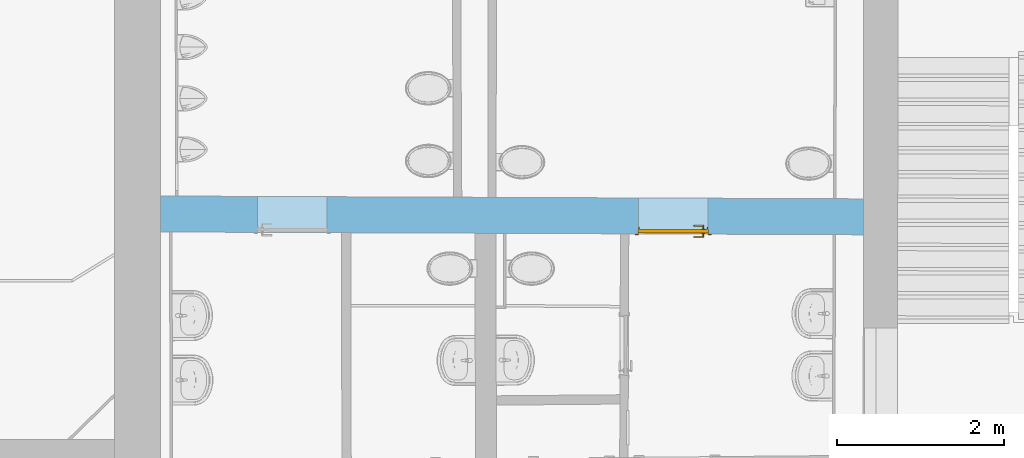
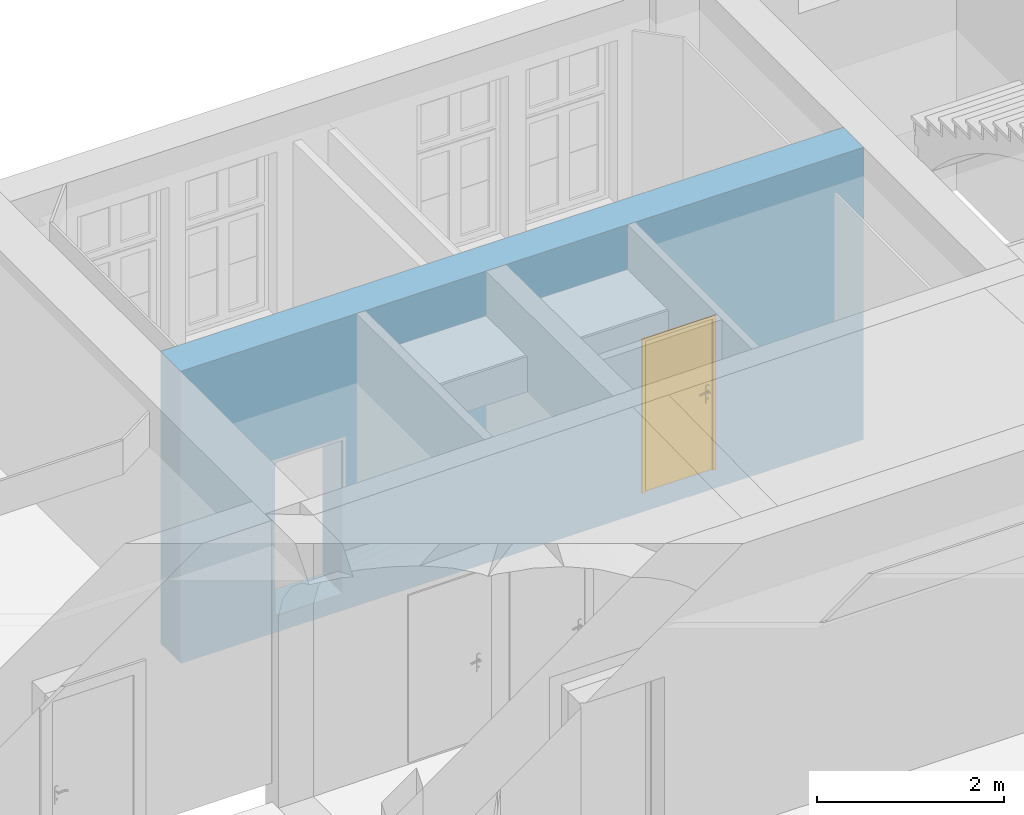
# One storey, part 83 of 158: 1 door, 2 openings, plus 1 element that does not belong to this part.
"""IFC2X3 building model written with IfcOpenShell, lengths in metres."""

import ifcopenshell
import ifcopenshell.guid

model = None  # the IFC model being written
_history = None  # IfcOwnerHistory: only IFC2X3 demands one
_inside = {}  # id of a spatial element -> (the spatial element, [elements in it])
_under = {}  # id of a project, library or spatial element -> (it, [spatial elements below it])
_declared = {}  # id of a project -> (the project, [libraries it declares])
_typed = {}  # id of a type object -> (the type object, [elements of that type])
_made_of = {}  # id of a material, layer set ... -> (it, [elements and type objects made of it])


def new_model(schema):
    """Start an empty IFC model of exactly this schema.

    Asked for "IFC4X3", IfcOpenShell would pick the latest addendum, in which some entities
    have other attributes; the version numbers below select the first issue.
    IFC2X3 requires an IfcOwnerHistory on every rooted entity: one is made here for all.
    """
    global model, _history
    if schema == "IFC4X3":
        model = ifcopenshell.file(schema_version=(4, 3, 0, 0))
    else:
        model = ifcopenshell.file(schema=schema)
    _inside.clear()
    _under.clear()
    _declared.clear()
    _typed.clear()
    _made_of.clear()
    _history = None
    if model.schema == "IFC2X3":
        org = make("IfcOrganization", Name="unknown")
        user = make(
            "IfcPersonAndOrganization",
            ThePerson=make("IfcPerson", FamilyName="unknown"),
            TheOrganization=org,
        )
        app = make(
            "IfcApplication",
            ApplicationDeveloper=org,
            Version="unknown",
            ApplicationFullName="unknown",
            ApplicationIdentifier="unknown",
        )
        _history = make(
            "IfcOwnerHistory",
            OwningUser=user,
            OwningApplication=app,
            ChangeAction="ADDED",
            CreationDate=0,
        )
    return model


def make(cls, **values):
    """One entity of the class cls with the attributes given. An attribute that is None is left unset."""
    return model.create_entity(
        cls, **{name: value for name, value in values.items() if value is not None}
    )


def entity(cls, *values):
    """Any entity or typed value of the class cls, its attributes in the order of the schema. None: left unset."""
    e = model.create_entity(cls)
    for i, value in enumerate(values):
        if value is not None:
            e[i] = value
    return e


def rooted(cls, **values):
    """An entity with a GlobalId (a new one), such as an element, a storey or a relation."""
    return make(cls, GlobalId=ifcopenshell.guid.new(), OwnerHistory=_history, **values)


def si_unit(unit_type, name, prefix=None):
    """IfcSIUnit, for example si_unit("LENGTHUNIT", "METRE", prefix="MILLI")."""
    return make("IfcSIUnit", UnitType=unit_type, Prefix=prefix, Name=name)


def converted_unit(unit_type, name, factor, base, dimensions=None, offset=None):
    """IfcConversionBasedUnit, such as the inch: factor (a typed value) times the base unit."""
    return make(
        "IfcConversionBasedUnit"
        if offset is None
        else "IfcConversionBasedUnitWithOffset",
        ConversionOffset=offset,
        Dimensions=None
        if dimensions is None
        else entity("IfcDimensionalExponents", *dimensions),
        UnitType=unit_type,
        Name=name,
        ConversionFactor=make(
            "IfcMeasureWithUnit", ValueComponent=factor, UnitComponent=base
        ),
    )


def derived_unit(unit_type, elements):
    """IfcDerivedUnit: a product of units, each with its exponent."""
    return make(
        "IfcDerivedUnit",
        Elements=[
            make("IfcDerivedUnitElement", Unit=unit, Exponent=power)
            for unit, power in elements
        ],
        UnitType=unit_type,
    )


def money_unit(currency):
    """IfcMonetaryUnit."""
    return make("IfcMonetaryUnit", Currency=currency)


def assignment(units):
    """IfcUnitAssignment: the units of a project."""
    return None if units is None else make("IfcUnitAssignment", Units=units)


def point(xyz):
    """IfcCartesianPoint."""
    return None if xyz is None else make("IfcCartesianPoint", Coordinates=xyz)


def direction(xyz):
    """IfcDirection."""
    return None if xyz is None else make("IfcDirection", DirectionRatios=xyz)


def frame(location, z_axis=None, x_axis=None):
    """IfcAxis2Placement3D, a coordinate frame: its origin and axes. An axis left out is left unset."""
    return make(
        "IfcAxis2Placement3D",
        Location=point(location),
        Axis=direction(z_axis),
        RefDirection=direction(x_axis),
    )


def frame_2d(location, x_axis=None):
    """IfcAxis2Placement2D, a coordinate frame in the plane: its origin and x axis."""
    return make(
        "IfcAxis2Placement2D", Location=point(location), RefDirection=direction(x_axis)
    )


def origin_with_axes():
    """The frame at (0, 0, 0) with the z axis (0, 0, 1) and the x axis (1, 0, 0) written out."""
    return frame((0.0, 0.0, 0.0), z_axis=(0.0, 0.0, 1.0), x_axis=(1.0, 0.0, 0.0))


def origin_2d_with_axis():
    """The frame at (0, 0) in the plane with the x axis (1, 0) written out."""
    return frame_2d((0.0, 0.0), x_axis=(1.0, 0.0))


def place(relative_to, where):
    """IfcLocalPlacement: puts the frame where relative to a parent placement (None: the world)."""
    return make(
        "IfcLocalPlacement", PlacementRelTo=relative_to, RelativePlacement=where
    )


def context(
    kind, dimensions, precision=None, world=None, true_north=None, identifier=None
):
    """IfcGeometricRepresentationContext, for example the 3D "Model" context."""
    return make(
        "IfcGeometricRepresentationContext",
        ContextIdentifier=identifier,
        ContextType=kind,
        CoordinateSpaceDimension=dimensions,
        Precision=precision,
        WorldCoordinateSystem=world,
        TrueNorth=true_north,
    )


def subcontext(parent, identifier, kind, view, scale=None):
    """IfcGeometricRepresentationSubContext, for example "Body" below "Model"."""
    return make(
        "IfcGeometricRepresentationSubContext",
        ContextIdentifier=identifier,
        ContextType=kind,
        ParentContext=parent,
        TargetScale=scale,
        TargetView=view,
    )


def project(units=None, contexts=None):
    """IfcProject with its units and contexts."""
    return rooted(
        "IfcProject",
        Name="project",
        RepresentationContexts=contexts,
        UnitsInContext=assignment(units),
    )


def spatial(cls, under=None, at=None, **own):
    """A site, building, storey or space (cls), placed at a placement, below another one or the project."""
    s = rooted(cls, ObjectPlacement=at, **own)
    if under is not None:
        _under.setdefault(under.id(), (under, []))[1].append(s)
    return s


def polyline(points):
    """IfcPolyline through the points."""
    return make("IfcPolyline", Points=[point(p) for p in points])


def profile(cls, at=None, kind="AREA", **sizes):
    """A parametric profile (cls). Its sizes go by their IFC names, for example OverallWidth=200.0."""
    return make(cls, ProfileType=kind, Position=at, **sizes)


def rectangle(**sizes):
    """IfcRectangleProfileDef."""
    return profile("IfcRectangleProfileDef", **sizes)


def outline(outer, holes=None, kind="AREA"):
    """IfcArbitraryClosedProfileDef: a profile drawn as a closed curve; with holes, ...WithVoids."""
    if holes is None:
        return make("IfcArbitraryClosedProfileDef", ProfileType=kind, OuterCurve=outer)
    return make(
        "IfcArbitraryProfileDefWithVoids",
        ProfileType=kind,
        OuterCurve=outer,
        InnerCurves=holes,
    )


def extrude(swept, where, along, depth):
    """IfcExtrudedAreaSolid: the profile swept, set in the frame where, extruded along a direction by depth."""
    return make(
        "IfcExtrudedAreaSolid",
        SweptArea=swept,
        Position=where,
        ExtrudedDirection=direction(along),
        Depth=depth,
    )


def boolean(op, a, b):
    """IfcBooleanResult of two solids."""
    return make("IfcBooleanResult", Operator=op, FirstOperand=a, SecondOperand=b)


def faces_of(points, faces, orient=None, outer=None):
    """IfcFace entities. A face is a list of loops; a loop is a list of indices into points, from 0.

    orient and outer hold one flag for each loop. By default every Orientation is true, the
    first loop of a face is its IfcFaceOuterBound and the others are IfcFaceBound.
    """
    made = []
    for i, loops in enumerate(faces):
        bounds = []
        for j, loop in enumerate(loops):
            is_outer = j == 0 if outer is None else outer[i][j]
            bounds.append(
                make(
                    "IfcFaceOuterBound" if is_outer else "IfcFaceBound",
                    Bound=make("IfcPolyLoop", Polygon=[points[k] for k in loop]),
                    Orientation=True if orient is None else orient[i][j],
                )
            )
        made.append(make("IfcFace", Bounds=bounds))
    return made


def faceted_brep(points, faces, orient=None, outer=None, voids=None):
    """IfcFacetedBrep: a solid bounded by flat faces; with voids (closed shells), ...WithVoids."""
    shared = [point(p) for p in points]
    hull = make("IfcClosedShell", CfsFaces=faces_of(shared, faces, orient, outer))
    if voids is None:
        return make("IfcFacetedBrep", Outer=hull)
    return make(
        "IfcFacetedBrepWithVoids",
        Outer=hull,
        Voids=[
            make(cls, CfsFaces=faces_of(shared, fs, o, b)) for cls, fs, o, b in voids
        ],
    )


def shape(context_of_items, identifier, shape_type, items):
    """IfcShapeRepresentation: the items that make up one representation, for example the "Body"."""
    return make(
        "IfcShapeRepresentation",
        ContextOfItems=context_of_items,
        RepresentationIdentifier=identifier,
        RepresentationType=shape_type,
        Items=items,
    )


def material(Name=None, Category=None):
    """IfcMaterial."""
    return make("IfcMaterial", Name=Name, Category=Category)


def made_of(thing, what):
    """Note that an element or type object is made of a material, layer set ...; save() writes the relation."""
    if what is not None:
        _made_of.setdefault(what.id(), (what, []))[1].append(thing)
    return thing


def type_object(cls, material=None, **own):
    """A type object (cls), such as IfcWallType, which elements share."""
    return made_of(rooted(cls, **own), material)


def element(
    cls,
    number,
    at=None,
    inside=None,
    cuts=None,
    type_object=None,
    material=None,
    context=None,
    identifier="Body",
    shape_type=None,
    held_by="IfcProductDefinitionShape",
    body=None,
    shapes=None,
    **own,
):
    """One element of the class cls, such as IfcWall. Its Tag is "e" and its number.

    at: its placement. inside: the storey or other place that contains it. cuts: it is an
    opening in that element (IfcRelVoidsElement). A single representation is given by context,
    identifier, shape_type and body (its items); several are given by shapes. held_by: the class
    of the entity that holds the representations. save() writes the other relations.
    """
    e = rooted(cls, Tag="e%d" % number, ObjectPlacement=at, **own)
    if body is not None:
        shapes = [shape(context, identifier, shape_type, body)]
    if shapes is not None:
        e.Representation = make(held_by, Representations=shapes)
    if inside is not None:
        _inside.setdefault(inside.id(), (inside, []))[1].append(e)
    if cuts is not None:
        rooted(
            "IfcRelVoidsElement", RelatingBuildingElement=cuts, RelatedOpeningElement=e
        )
    if type_object is not None:
        _typed.setdefault(type_object.id(), (type_object, []))[1].append(e)
    return made_of(e, material)


def fill(opening, filler):
    """IfcRelFillsElement: the door or window that sits in an opening."""
    return rooted(
        "IfcRelFillsElement",
        RelatingOpeningElement=opening,
        RelatedBuildingElement=filler,
    )


def aggregate(whole, parts):
    """IfcRelAggregates: a whole, such as a stair, and the parts it consists of."""
    return rooted("IfcRelAggregates", RelatingObject=whole, RelatedObjects=parts)


def save(model, path):
    """Write the relations noted so far, then the file.

    IfcRelAggregates (storeys below a building ...), IfcRelContainedInSpatialStructure (elements
    in a storey), IfcRelDefinesByType, IfcRelAssociatesMaterial and IfcRelDeclares: one each for
    every whole, place, type object, material and project.
    """
    for whole, parts in _under.values():
        aggregate(whole, parts)
    for where, things in _inside.values():
        rooted(
            "IfcRelContainedInSpatialStructure",
            RelatedElements=things,
            RelatingStructure=where,
        )
    for kind, things in _typed.values():
        rooted("IfcRelDefinesByType", RelatedObjects=things, RelatingType=kind)
    for what, things in _made_of.values():
        rooted("IfcRelAssociatesMaterial", RelatedObjects=things, RelatingMaterial=what)
    for by, libraries in _declared.values():
        rooted("IfcRelDeclares", RelatingContext=by, RelatedDefinitions=libraries)
    model.write(path)


model = new_model("IFC2X3")

# Units and contexts
model_context = context("Model", 3, precision=1e-05, world=origin_with_axes(), true_north=direction((0.0, 1.0)))
body_context = subcontext(model_context, "Body", "Model", "MODEL_VIEW")
ifc_project = project(units=[si_unit("LENGTHUNIT", "METRE"), si_unit("AREAUNIT", "SQUARE_METRE"), si_unit("VOLUMEUNIT", "CUBIC_METRE"), converted_unit("PLANEANGLEUNIT", "DEGREE", entity("IfcPlaneAngleMeasure", 0.0174532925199), si_unit("PLANEANGLEUNIT", "RADIAN"), dimensions=[0, 0, 0, 0, 0, 0, 0]), money_unit("EUR"), converted_unit("TIMEUNIT", "Year", entity("IfcTimeMeasure", 31556926.0), si_unit("TIMEUNIT", "SECOND"), dimensions=[0, 0, 1, 0, 0, 0, 0]), si_unit("MASSUNIT", "GRAM", prefix="KILO"), si_unit("THERMODYNAMICTEMPERATUREUNIT", "DEGREE_CELSIUS"), si_unit("LUMINOUSINTENSITYUNIT", "LUMEN"), si_unit("ENERGYUNIT", "JOULE", prefix="MEGA"), derived_unit("THERMALCONDUCTANCEUNIT", [(si_unit("POWERUNIT", "WATT"), 1), (si_unit("LENGTHUNIT", "METRE"), -1), (si_unit("THERMODYNAMICTEMPERATUREUNIT", "KELVIN"), -1)]), derived_unit("SPECIFICHEATCAPACITYUNIT", [(si_unit("ENERGYUNIT", "JOULE"), 1), (si_unit("MASSUNIT", "GRAM", prefix="KILO"), -1), (si_unit("THERMODYNAMICTEMPERATUREUNIT", "KELVIN"), -1)]), derived_unit("MASSDENSITYUNIT", [(si_unit("MASSUNIT", "GRAM", prefix="KILO"), 1), (si_unit("VOLUMEUNIT", "CUBIC_METRE"), -1)])], contexts=[model_context])

# Site, building, storey
site_placement = place(None, origin_with_axes())
site = spatial("IfcSite", under=ifc_project, at=site_placement, Name="Gelände", CompositionType="ELEMENT")
building_placement = place(site_placement, origin_with_axes())
building = spatial("IfcBuilding", under=site, at=building_placement, Name="Gebäude", CompositionType="ELEMENT")
storey_placement = place(building_placement, origin_with_axes())
storey = spatial("IfcBuildingStorey", under=building, at=storey_placement, Name="ERDGESCHOSS", CompositionType="ELEMENT", Elevation=0.0)

# Wall, openings, door
ifc_material = material(Name="05_ALLGEMEIN - TRAGENDE BAUTEILE")
wall_type = type_object("IfcWallType", Name="05_ALLGEMEIN - TRAGENDE BAUTEILE 430", PredefinedType="ELEMENTEDWALL")
wall_placement = place(storey_placement, frame((12.5396494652, 22.1758858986, -0.210000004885), z_axis=(0.0, 0.0, 1.0), x_axis=(0.999992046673, -0.0039883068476, 0.0)))
wall = element("IfcWall", 1, at=wall_placement, inside=storey, type_object=wall_type, material=ifc_material, Name="Wand-039", ObjectType="ELEMENTEDWALL", context=body_context, shape_type="CSG", body=[
    boolean("DIFFERENCE", boolean("DIFFERENCE", extrude(outline(polyline([(-0.0018147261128, 0.0), (9.3577466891, 0.0), (9.3577466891, 0.43), (-0.0018147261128, 0.43), (-0.0018147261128, 0.0)])), origin_with_axes(), (0.0, 0.0, 1.0), 3.81000000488), faceted_brep([(0.550004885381, 0.0, 2.78243494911e-09), (0.550004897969, 0.0, 3.81000000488), (-0.0018147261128, 0.0, 3.81000000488), (-0.0018147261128, 0.0, 0.0), (0.548190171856, 0.43, 3.81000000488), (0.548190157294, 0.43, 2.48720399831e-09), (-0.0018147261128, 0.43, 3.81000000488), (-0.0018147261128, 0.43, 0.0)], [[[0, 1, 2, 3]], [[4, 1, 0, 5]], [[1, 4, 6, 2]], [[6, 7, 3, 2]], [[5, 0, 3, 7]], [[4, 5, 7, 6]]])), faceted_brep([(8.94659090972, 0.43, 0.0), (8.94659090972, 0.43, 3.81000000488), (9.3577466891, 0.43, 3.81000000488), (9.3577466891, 0.43, 0.0), (8.94774521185, 0.0, 3.81000000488), (8.94774521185, 0.0, 0.0), (9.3577466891, 0.0, 3.81000000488), (9.3577466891, 0.0, 0.0)], [[[0, 1, 2, 3]], [[4, 1, 0, 5]], [[1, 4, 6, 2]], [[6, 7, 3, 2]], [[5, 0, 3, 7]], [[4, 5, 7, 6]]])),
])
opening_1_placement = place(wall_placement, frame((2.12348208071, 0.0, 0.220000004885), z_axis=(0.0, 0.0, 1.0), x_axis=(1.0, 0.0, 0.0)))
element("IfcOpeningElement", 2, at=opening_1_placement, cuts=wall, Name="Tür-022", context=body_context, shape_type="SweptSolid", body=[
    extrude(rectangle(XDim=0.829850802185, YDim=2.00684416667, at=origin_2d_with_axis()), frame((0.0, -0.43, 1.00342208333), z_axis=(0.0, -1.0, 0.0), x_axis=(1.0, 0.0, 0.0)), (0.0, 0.0, -1.0), 1.29),
])
opening_2_placement = place(wall_placement, frame((6.67496092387, 0.0, 0.250000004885), z_axis=(0.0, 0.0, 1.0), x_axis=(1.0, 0.0, 0.0)))
opening_2 = element("IfcOpeningElement", 3, at=opening_2_placement, cuts=wall, Name="Tür-022", context=body_context, shape_type="SweptSolid", body=[
    extrude(rectangle(XDim=0.832133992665, YDim=1.97475383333, at=origin_2d_with_axis()), frame((0.0, -0.43, 0.987376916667), z_axis=(0.0, 1.0, 0.0), x_axis=(-1.0, 0.0, 0.0)), (0.0, 0.0, 1.0), 1.29),
])
door_style = type_object("IfcDoorStyle", Name="Blockrahmentür 1-Fl 25", ConstructionType="NOTDEFINED", OperationType="SINGLE_SWING_RIGHT", ParameterTakesPrecedence=False, Sizeable=False)
door_placement = place(opening_2_placement, frame((0.405566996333, 0.0, 0.0), z_axis=(0.0, 0.0, 1.0), x_axis=(-1.0, 0.0, 0.0)))
door = element("IfcDoor", 4, at=door_placement, inside=storey, type_object=door_style, Name="Tür-022", ObjectType="NOTDEFINED", OverallHeight=1.97475, OverallWidth=0.832134, context=body_context, shape_type="Brep", body=[
    faceted_brep([(0.821633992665, -0.084, 0.0), (0.821633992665, -0.054, 0.0), (0.821633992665, -0.054, 1.97475383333), (0.821633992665, -0.084, 1.97475383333), (0.811133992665, -0.084, 0.0), (0.811133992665, -0.054, 0.0), (0.811133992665, -0.054, 1.96425383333), (0.520666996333, -0.054, 1.96425383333), (0.405666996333, -0.054, 1.96425383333), (0.0, -0.054, 1.96425383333), (0.0, -0.054, 0.0), (-0.0105, -0.054, 0.0), (-0.0105, -0.054, 1.97475383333), (-0.0105, -0.084, 1.97475383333), (-0.0105, -0.084, 0.0), (0.0, -0.084, 0.0), (0.0, -0.084, 1.96425383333), (0.405666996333, -0.084, 1.96425383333), (0.520666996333, -0.084, 1.96425383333), (0.811133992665, -0.084, 1.96425383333)], [[[0, 1, 2, 3]], [[4, 5, 1, 0]], [[1, 5, 6, 7, 8, 9, 10, 11, 12, 2]], [[3, 2, 12, 13]], [[0, 3, 13, 14, 15, 16, 17, 18, 19, 4]], [[19, 6, 5, 4]], [[18, 7, 6, 19]], [[17, 8, 7, 18]], [[16, 9, 8, 17]], [[15, 10, 9, 16]], [[14, 11, 10, 15]], [[13, 12, 11, 14]]]),
    faceted_brep([(0.821633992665, -0.054, 0.0), (0.821633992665, 0.011, 0.0), (0.826133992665, 0.011, 0.0), (0.826133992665, -0.054, 0.0), (0.821633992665, -0.054, 1.97475383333), (0.821633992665, 0.011, 1.97475383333), (-0.0105, 0.011, 1.97475383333), (-0.0105, 0.011, 0.0), (-0.015, 0.011, 0.0), (-0.015, 0.011, 1.97925383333), (0.420666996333, 0.011, 1.97925383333), (0.505666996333, 0.011, 1.97925383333), (0.826133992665, 0.011, 1.97925383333), (0.826133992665, -0.054, 1.97925383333), (0.505666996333, -0.054, 1.97925383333), (0.420666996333, -0.054, 1.97925383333), (-0.015, -0.054, 1.97925383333), (-0.015, -0.054, 0.0), (-0.0105, -0.054, 0.0), (-0.0105, -0.054, 1.97475383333)], [[[0, 1, 2, 3]], [[4, 5, 1, 0]], [[1, 5, 6, 7, 8, 9, 10, 11, 12, 2]], [[3, 2, 12, 13]], [[0, 3, 13, 14, 15, 16, 17, 18, 19, 4]], [[19, 6, 5, 4]], [[18, 7, 6, 19]], [[17, 8, 7, 18]], [[16, 9, 8, 17]], [[15, 10, 9, 16]], [[14, 11, 10, 15]], [[13, 12, 11, 14]]]),
    faceted_brep([(0.861633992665, 0.0, 0.0), (0.861633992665, 0.011, 0.0), (0.861633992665, 0.011, 2.01475383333), (0.861633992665, 0.0, 2.01475383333), (0.821633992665, 0.0, 0.0), (0.821633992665, 0.011, 0.0), (0.821633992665, 0.011, 1.97475383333), (-0.0105, 0.011, 1.97475383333), (-0.0105, 0.011, 0.0), (-0.0505, 0.011, 0.0), (-0.0505, 0.011, 2.01475383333), (-0.0505, 0.0, 2.01475383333), (-0.0505, 0.0, 0.0), (-0.0105, 0.0, 0.0), (-0.0105, 0.0, 1.97475383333), (0.821633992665, 0.0, 1.97475383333)], [[[0, 1, 2, 3]], [[4, 5, 1, 0]], [[1, 5, 6, 7, 8, 9, 10, 2]], [[3, 2, 10, 11]], [[0, 3, 11, 12, 13, 14, 15, 4]], [[15, 6, 5, 4]], [[14, 7, 6, 15]], [[13, 8, 7, 14]], [[12, 9, 8, 13]], [[11, 10, 9, 12]]]),
    faceted_brep([(0.826133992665, -0.014, 0.0), (-0.015, -0.014, 0.0), (-0.015, -0.014, 1.97925383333), (0.826133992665, -0.014, 1.97925383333), (0.826133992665, -0.054, 0.0), (-0.015, -0.054, 0.0), (-0.015, -0.054, 1.97925383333), (0.826133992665, -0.054, 1.97925383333)], [[[0, 1, 2, 3]], [[1, 0, 4, 5]], [[2, 1, 5, 6]], [[3, 2, 6, 7]], [[0, 3, 7, 4]], [[5, 4, 7, 6]]]),
    faceted_brep([(0.0402977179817, -0.094, 1.05647213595), (0.045, -0.094, 1.058), (0.045, -0.074, 1.058), (0.0402977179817, -0.074, 1.05647213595), (0.0373915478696, -0.094, 1.05247213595), (0.0373915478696, -0.094, 1.04752786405), (0.0402977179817, -0.094, 1.04352786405), (0.045, -0.094, 1.042), (0.0497022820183, -0.094, 1.04352786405), (0.0526084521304, -0.094, 1.04752786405), (0.0526084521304, -0.094, 1.05247213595), (0.0497022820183, -0.094, 1.05647213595), (0.0497022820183, -0.074, 1.05647213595), (0.045, -0.072, 1.06), (0.0391221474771, -0.072, 1.05809016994), (0.0373915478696, -0.074, 1.05247213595), (0.0373915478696, -0.074, 1.04752786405), (0.0402977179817, -0.074, 1.04352786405), (0.045, -0.074, 1.042), (0.0497022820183, -0.074, 1.04352786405), (0.0526084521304, -0.074, 1.04752786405), (0.0526084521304, -0.074, 1.05247213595), (0.0508778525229, -0.072, 1.05809016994), (0.045, -0.064, 1.06), (0.0391221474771, -0.064, 1.05809016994), (0.0354894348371, -0.072, 1.05309016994), (0.0354894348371, -0.072, 1.04690983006), (0.0391221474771, -0.072, 1.04190983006), (0.045, -0.072, 1.04), (0.0508778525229, -0.072, 1.04190983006), (0.0545105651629, -0.072, 1.04690983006), (0.0545105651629, -0.072, 1.05309016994), (0.0508778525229, -0.064, 1.05809016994), (0.0545105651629, -0.064, 1.05309016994), (0.0545105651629, -0.064, 1.04690983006), (0.0508778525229, -0.064, 1.04190983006), (0.045, -0.064, 1.04), (0.0391221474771, -0.064, 1.04190983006), (0.035489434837, -0.064, 1.04690983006), (0.035489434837, -0.064, 1.05309016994)], [[[0, 1, 2, 3]], [[1, 0, 4, 5, 6, 7, 8, 9, 10, 11]], [[1, 11, 12, 2]], [[3, 2, 13, 14]], [[4, 0, 3, 15]], [[5, 4, 15, 16]], [[6, 5, 16, 17]], [[7, 6, 17, 18]], [[8, 7, 18, 19]], [[9, 8, 19, 20]], [[10, 9, 20, 21]], [[11, 10, 21, 12]], [[2, 12, 22, 13]], [[14, 13, 23, 24]], [[15, 3, 14, 25]], [[16, 15, 25, 26]], [[17, 16, 26, 27]], [[18, 17, 27, 28]], [[19, 18, 28, 29]], [[20, 19, 29, 30]], [[21, 20, 30, 31]], [[12, 21, 31, 22]], [[13, 22, 32, 23]], [[23, 32, 33, 34, 35, 36, 37, 38, 39, 24]], [[25, 14, 24, 39]], [[26, 25, 39, 38]], [[27, 26, 38, 37]], [[28, 27, 37, 36]], [[29, 28, 36, 35]], [[30, 29, 35, 34]], [[31, 30, 34, 33]], [[22, 31, 33, 32]]]),
    faceted_brep([(0.0571883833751, -0.064, 1.11759695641), (0.0494435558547, -0.064, 1.12195567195), (0.0405564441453, -0.064, 1.12195567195), (0.0328116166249, -0.064, 1.11759695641), (0.0282, -0.064, 1.11), (0.0225, -0.064, 1.11), (0.0225, -0.064, 0.89), (0.0282, -0.064, 0.89), (0.0328116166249, -0.064, 0.882403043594), (0.0405564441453, -0.064, 0.878044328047), (0.0494435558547, -0.064, 0.878044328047), (0.0571883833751, -0.064, 0.882403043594), (0.0618, -0.064, 0.89), (0.0675, -0.064, 0.89), (0.0675, -0.064, 1.11), (0.0618, -0.064, 1.11), (0.045, -0.064, 0.967425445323), (0.050375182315, -0.064, 0.965143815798), (0.0524678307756, -0.064, 0.959692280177), (0.05, -0.064, 0.9544), (0.05, -0.064, 0.9375), (0.0485355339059, -0.064, 0.933964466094), (0.045, -0.064, 0.9325), (0.0414644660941, -0.064, 0.933964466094), (0.04, -0.064, 0.9375), (0.04, -0.064, 0.9544), (0.0375321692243, -0.064, 0.959692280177), (0.039624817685, -0.064, 0.965143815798), (0.0571883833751, -0.054, 1.11759695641), (0.0494435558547, -0.054, 1.12195567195), (0.0405564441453, -0.054, 1.12195567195), (0.0328116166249, -0.054, 1.11759695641), (0.0282, -0.054, 1.11), (0.0225, -0.054, 1.11), (0.0225, -0.054, 0.89), (0.0282, -0.054, 0.89), (0.0328116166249, -0.054, 0.882403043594), (0.0405564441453, -0.054, 0.878044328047), (0.0494435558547, -0.054, 0.878044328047), (0.0571883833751, -0.054, 0.882403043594), (0.0618, -0.054, 0.89), (0.0675, -0.054, 0.89), (0.0675, -0.054, 1.11), (0.0618, -0.054, 1.11), (0.045, -0.054, 0.967425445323), (0.050375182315, -0.054, 0.965143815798), (0.0524678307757, -0.054, 0.959692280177), (0.05, -0.054, 0.9544), (0.05, -0.054, 0.9375), (0.0485355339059, -0.054, 0.933964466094), (0.045, -0.054, 0.9325), (0.0414644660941, -0.054, 0.933964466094), (0.04, -0.054, 0.9375), (0.04, -0.054, 0.9544), (0.0375321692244, -0.054, 0.959692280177), (0.039624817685, -0.054, 0.965143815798)], [[[0, 1, 2, 3, 4, 5, 6, 7, 8, 9, 10, 11, 12, 13, 14, 15], [16, 17, 18, 19, 20, 21, 22, 23, 24, 25, 26, 27]], [[1, 0, 28, 29]], [[2, 1, 29, 30]], [[3, 2, 30, 31]], [[4, 3, 31, 32]], [[5, 4, 32, 33]], [[6, 5, 33, 34]], [[7, 6, 34, 35]], [[8, 7, 35, 36]], [[9, 8, 36, 37]], [[10, 9, 37, 38]], [[11, 10, 38, 39]], [[12, 11, 39, 40]], [[13, 12, 40, 41]], [[14, 13, 41, 42]], [[15, 14, 42, 43]], [[0, 15, 43, 28]], [[17, 16, 44, 45]], [[18, 17, 45, 46]], [[19, 18, 46, 47]], [[19, 47, 48, 20]], [[20, 48, 49, 21]], [[21, 49, 50, 22]], [[22, 50, 51, 23]], [[23, 51, 52, 24]], [[53, 25, 24, 52]], [[26, 25, 53, 54]], [[27, 26, 54, 55]], [[16, 27, 55, 44]], [[40, 39, 38, 37, 36, 35, 34, 33, 32, 31, 30, 29, 28, 43, 42, 41], [54, 53, 52, 51, 50, 49, 48, 47, 46, 45, 44, 55]]]),
    faceted_brep([(0.159253, -0.094, 1.057158), (0.159253, -0.109, 1.057158), (0.159254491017, -0.109, 1.05719388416), (0.159254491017, -0.094, 1.05719388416), (0.132225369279, -0.094, 1.06432652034), (0.132225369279, -0.109, 1.06432652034), (0.104397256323, -0.109, 1.06706086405), (0.0764912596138, -0.109, 1.06529002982), (0.049232, -0.109, 1.05906), (0.0428294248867, -0.109, 1.05976125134), (0.0373273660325, -0.109, 1.05641280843), (0.0350084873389, -0.109, 1.05040385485), (0.0368348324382, -0.109, 1.04422735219), (0.0420486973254, -0.109, 1.04044577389), (0.0484869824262, -0.109, 1.04062800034), (0.0534786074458, -0.109, 1.04469843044), (0.053458, -0.109, 1.044666), (0.0787467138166, -0.109, 1.05019878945), (0.104589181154, -0.109, 1.05171460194), (0.130351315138, -0.109, 1.04917624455), (0.155401, -0.109, 1.042646), (0.160944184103, -0.109, 1.04356849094), (0.16430572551, -0.109, 1.04807159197), (0.163614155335, -0.109, 1.05364829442), (0.163614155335, -0.094, 1.05364829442), (0.16430572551, -0.094, 1.04807159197), (0.160944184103, -0.094, 1.04356849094), (0.155401, -0.094, 1.042646), (0.130351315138, -0.094, 1.04917624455), (0.104589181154, -0.094, 1.05171460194), (0.0787467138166, -0.094, 1.05019878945), (0.053458, -0.094, 1.044666), (0.0534786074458, -0.094, 1.04469843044), (0.0484869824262, -0.094, 1.04062800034), (0.0420486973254, -0.094, 1.04044577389), (0.0368348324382, -0.094, 1.04422735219), (0.0350084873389, -0.094, 1.05040385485), (0.0373273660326, -0.094, 1.05641280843), (0.0428294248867, -0.094, 1.05976125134), (0.049232, -0.094, 1.05906), (0.0764912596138, -0.094, 1.06529002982), (0.104397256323, -0.094, 1.06706086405)], [[[0, 1, 2, 3]], [[4, 5, 1, 0]], [[1, 5, 6, 7, 8, 9, 10, 11, 12, 13, 14, 15, 16, 17, 18, 19, 20, 21, 22, 23, 2]], [[3, 2, 23, 24]], [[0, 3, 24, 25, 26, 27, 28, 29, 30, 31, 32, 33, 34, 35, 36, 37, 38, 39, 40, 41, 4]], [[41, 6, 5, 4]], [[40, 7, 6, 41]], [[39, 8, 7, 40]], [[38, 9, 8, 39]], [[37, 10, 9, 38]], [[36, 11, 10, 37]], [[35, 12, 11, 36]], [[34, 13, 12, 35]], [[33, 14, 13, 34]], [[32, 15, 14, 33]], [[31, 16, 15, 32]], [[30, 17, 16, 31]], [[29, 18, 17, 30]], [[28, 19, 18, 29]], [[27, 20, 19, 28]], [[26, 21, 20, 27]], [[25, 22, 21, 26]], [[24, 23, 22, 25]]]),
    faceted_brep([(0.0402977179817, 0.026, 1.05647213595), (0.0402977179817, 0.006, 1.05647213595), (0.045, 0.006, 1.058), (0.045, 0.026, 1.058), (0.0373915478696, 0.026, 1.05247213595), (0.0373915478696, 0.006, 1.05247213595), (0.0391221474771, 0.004, 1.05809016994), (0.045, 0.004, 1.06), (0.0497022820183, 0.006, 1.05647213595), (0.0497022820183, 0.026, 1.05647213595), (0.0526084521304, 0.026, 1.05247213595), (0.0526084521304, 0.026, 1.04752786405), (0.0497022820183, 0.026, 1.04352786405), (0.045, 0.026, 1.042), (0.0402977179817, 0.026, 1.04352786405), (0.0373915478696, 0.026, 1.04752786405), (0.0373915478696, 0.006, 1.04752786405), (0.0354894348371, 0.004, 1.05309016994), (0.0391221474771, -0.004, 1.05809016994), (0.045, -0.004, 1.06), (0.0508778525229, 0.004, 1.05809016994), (0.0526084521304, 0.006, 1.05247213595), (0.0526084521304, 0.006, 1.04752786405), (0.0497022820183, 0.006, 1.04352786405), (0.045, 0.006, 1.042), (0.0402977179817, 0.006, 1.04352786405), (0.0354894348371, 0.004, 1.04690983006), (0.035489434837, -0.00399999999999, 1.05309016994), (0.035489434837, -0.00399999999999, 1.04690983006), (0.0391221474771, -0.004, 1.04190983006), (0.045, -0.004, 1.04), (0.0508778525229, -0.00399999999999, 1.04190983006), (0.0545105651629, -0.004, 1.04690983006), (0.0545105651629, -0.004, 1.05309016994), (0.0508778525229, -0.00399999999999, 1.05809016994), (0.054510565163, 0.004, 1.05309016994), (0.054510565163, 0.004, 1.04690983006), (0.0508778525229, 0.004, 1.04190983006), (0.045, 0.004, 1.04), (0.0391221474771, 0.004, 1.04190983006)], [[[0, 1, 2, 3]], [[4, 5, 1, 0]], [[1, 6, 7, 2]], [[3, 2, 8, 9]], [[3, 9, 10, 11, 12, 13, 14, 15, 4, 0]], [[15, 16, 5, 4]], [[5, 17, 6, 1]], [[6, 18, 19, 7]], [[2, 7, 20, 8]], [[9, 8, 21, 10]], [[10, 21, 22, 11]], [[11, 22, 23, 12]], [[12, 23, 24, 13]], [[13, 24, 25, 14]], [[14, 25, 16, 15]], [[16, 26, 17, 5]], [[17, 27, 18, 6]], [[19, 18, 27, 28, 29, 30, 31, 32, 33, 34]], [[7, 19, 34, 20]], [[8, 20, 35, 21]], [[21, 35, 36, 22]], [[22, 36, 37, 23]], [[23, 37, 38, 24]], [[24, 38, 39, 25]], [[25, 39, 26, 16]], [[26, 28, 27, 17]], [[39, 29, 28, 26]], [[38, 30, 29, 39]], [[37, 31, 30, 38]], [[36, 32, 31, 37]], [[35, 33, 32, 36]], [[20, 34, 33, 35]]]),
    faceted_brep([(0.0571883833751, -0.014, 1.11759695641), (0.0494435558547, -0.014, 1.12195567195), (0.0405564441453, -0.014, 1.12195567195), (0.0328116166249, -0.014, 1.11759695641), (0.0282, -0.014, 1.11), (0.0225, -0.014, 1.11), (0.0225, -0.014, 0.89), (0.0282, -0.014, 0.89), (0.0328116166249, -0.014, 0.882403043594), (0.0405564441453, -0.014, 0.878044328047), (0.0494435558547, -0.014, 0.878044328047), (0.0571883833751, -0.014, 0.882403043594), (0.0618, -0.014, 0.89), (0.0675, -0.014, 0.89), (0.0675, -0.014, 1.11), (0.0618, -0.014, 1.11), (0.045, -0.014, 0.967425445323), (0.050375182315, -0.014, 0.965143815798), (0.0524678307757, -0.014, 0.959692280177), (0.05, -0.014, 0.9544), (0.05, -0.014, 0.9375), (0.0485355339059, -0.014, 0.933964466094), (0.045, -0.014, 0.9325), (0.0414644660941, -0.014, 0.933964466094), (0.04, -0.014, 0.9375), (0.04, -0.014, 0.9544), (0.0375321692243, -0.014, 0.959692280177), (0.039624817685, -0.014, 0.965143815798), (0.0494435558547, -0.004, 1.12195567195), (0.0571883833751, -0.004, 1.11759695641), (0.0405564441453, -0.004, 1.12195567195), (0.0328116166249, -0.00399999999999, 1.11759695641), (0.0282, -0.004, 1.11), (0.0225, -0.004, 1.11), (0.0225, -0.004, 0.89), (0.0282, -0.004, 0.89), (0.0328116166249, -0.00399999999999, 0.882403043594), (0.0405564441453, -0.004, 0.878044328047), (0.0494435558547, -0.004, 0.878044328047), (0.0571883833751, -0.004, 0.882403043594), (0.0618, -0.004, 0.89), (0.0675, -0.004, 0.89), (0.0675, -0.004, 1.11), (0.0618, -0.004, 1.11), (0.045, -0.004, 0.967425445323), (0.050375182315, -0.00399999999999, 0.965143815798), (0.0524678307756, -0.00399999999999, 0.959692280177), (0.05, -0.004, 0.9544), (0.05, -0.004, 0.9375), (0.0485355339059, -0.004, 0.933964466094), (0.045, -0.004, 0.9325), (0.0414644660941, -0.004, 0.933964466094), (0.04, -0.004, 0.9375), (0.04, -0.004, 0.9544), (0.0375321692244, -0.004, 0.959692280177), (0.039624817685, -0.004, 0.965143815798)], [[[0, 1, 2, 3, 4, 5, 6, 7, 8, 9, 10, 11, 12, 13, 14, 15], [16, 17, 18, 19, 20, 21, 22, 23, 24, 25, 26, 27]], [[28, 1, 0, 29]], [[30, 2, 1, 28]], [[31, 3, 2, 30]], [[32, 4, 3, 31]], [[33, 5, 4, 32]], [[34, 6, 5, 33]], [[35, 7, 6, 34]], [[36, 8, 7, 35]], [[37, 9, 8, 36]], [[38, 10, 9, 37]], [[39, 11, 10, 38]], [[40, 12, 11, 39]], [[41, 13, 12, 40]], [[42, 14, 13, 41]], [[43, 15, 14, 42]], [[29, 0, 15, 43]], [[17, 16, 44, 45]], [[18, 17, 45, 46]], [[19, 18, 46, 47]], [[19, 47, 48, 20]], [[20, 48, 49, 21]], [[21, 49, 50, 22]], [[22, 50, 51, 23]], [[23, 51, 52, 24]], [[53, 25, 24, 52]], [[26, 25, 53, 54]], [[27, 26, 54, 55]], [[16, 27, 55, 44]], [[40, 39, 38, 37, 36, 35, 34, 33, 32, 31, 30, 28, 29, 43, 42, 41], [54, 53, 52, 51, 50, 49, 48, 47, 46, 45, 44, 55]]]),
    faceted_brep([(0.159253, 0.026, 1.057158), (0.159254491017, 0.026, 1.05719388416), (0.159254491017, 0.041, 1.05719388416), (0.159253, 0.041, 1.057158), (0.132225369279, 0.026, 1.06432652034), (0.104397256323, 0.026, 1.06706086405), (0.0764912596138, 0.026, 1.06529002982), (0.049232, 0.026, 1.05906), (0.0428294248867, 0.026, 1.05976125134), (0.0373273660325, 0.026, 1.05641280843), (0.0350084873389, 0.026, 1.05040385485), (0.0368348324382, 0.026, 1.04422735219), (0.0420486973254, 0.026, 1.04044577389), (0.0484869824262, 0.026, 1.04062800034), (0.0534786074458, 0.026, 1.04469843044), (0.053458, 0.026, 1.044666), (0.0787467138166, 0.026, 1.05019878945), (0.104589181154, 0.026, 1.05171460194), (0.130351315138, 0.026, 1.04917624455), (0.155401, 0.026, 1.042646), (0.160944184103, 0.026, 1.04356849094), (0.16430572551, 0.026, 1.04807159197), (0.163614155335, 0.026, 1.05364829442), (0.163614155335, 0.041, 1.05364829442), (0.16430572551, 0.041, 1.04807159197), (0.160944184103, 0.041, 1.04356849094), (0.155401, 0.041, 1.042646), (0.130351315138, 0.041, 1.04917624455), (0.104589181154, 0.041, 1.05171460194), (0.0787467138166, 0.041, 1.05019878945), (0.053458, 0.041, 1.044666), (0.0534786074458, 0.041, 1.04469843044), (0.0484869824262, 0.041, 1.04062800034), (0.0420486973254, 0.041, 1.04044577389), (0.0368348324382, 0.041, 1.04422735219), (0.0350084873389, 0.041, 1.05040385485), (0.0373273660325, 0.041, 1.05641280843), (0.0428294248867, 0.041, 1.05976125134), (0.049232, 0.041, 1.05906), (0.0764912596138, 0.041, 1.06529002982), (0.104397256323, 0.041, 1.06706086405), (0.132225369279, 0.041, 1.06432652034)], [[[0, 1, 2, 3]], [[0, 4, 5, 6, 7, 8, 9, 10, 11, 12, 13, 14, 15, 16, 17, 18, 19, 20, 21, 22, 1]], [[1, 22, 23, 2]], [[3, 2, 23, 24, 25, 26, 27, 28, 29, 30, 31, 32, 33, 34, 35, 36, 37, 38, 39, 40, 41]], [[4, 0, 3, 41]], [[5, 4, 41, 40]], [[6, 5, 40, 39]], [[7, 6, 39, 38]], [[8, 7, 38, 37]], [[9, 8, 37, 36]], [[10, 9, 36, 35]], [[11, 10, 35, 34]], [[12, 11, 34, 33]], [[13, 12, 33, 32]], [[14, 13, 32, 31]], [[15, 14, 31, 30]], [[16, 15, 30, 29]], [[17, 16, 29, 28]], [[18, 17, 28, 27]], [[19, 18, 27, 26]], [[20, 19, 26, 25]], [[21, 20, 25, 24]], [[22, 21, 24, 23]]]),
])
fill(opening_2, door)

save(model, "model.ifc")
